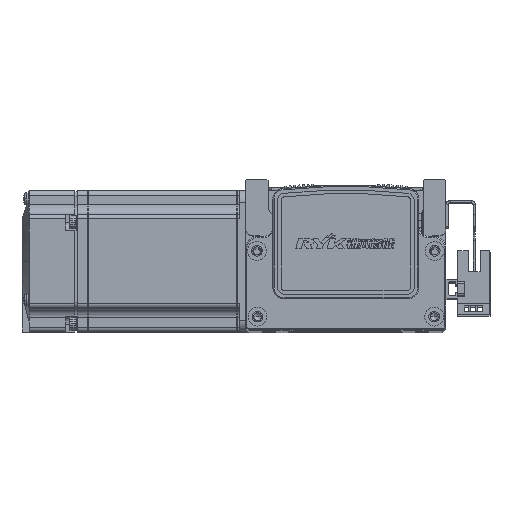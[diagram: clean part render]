
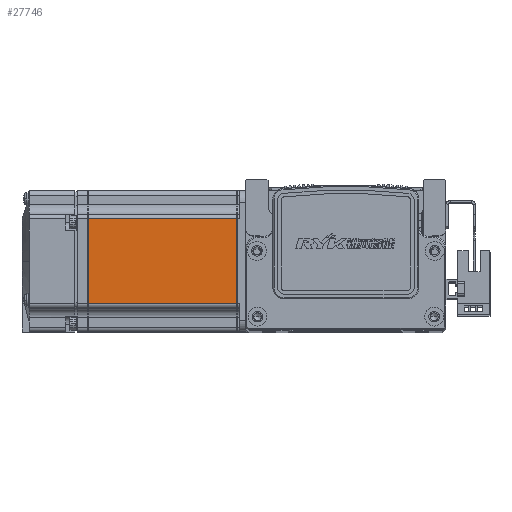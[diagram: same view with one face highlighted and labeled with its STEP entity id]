
A CAD part, top view. The second image highlights one B-rep face of the part: STEP entity #27746.
In plain terms, the highlighted planar face has unit normal (0, 0, 1) as drawn and (0, 0, -1) by its records, which use the part's own axes.
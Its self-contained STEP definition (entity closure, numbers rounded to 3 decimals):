
#2607 = AXIS2_PLACEMENT_3D ( 'NONE', #16698, #16697, #16707 ) ;
#7868 = EDGE_LOOP ( 'NONE', ( #49194, #49203, #49231, #49233 ) ) ;
#16695 = PLANE ( 'NONE',  #2607 ) ;
#16697 = DIRECTION ( 'NONE',  ( 0., 0., -1. ) ) ;
#16698 = CARTESIAN_POINT ( 'NONE',  ( -6.5, 25., -30. ) ) ;
#16707 = DIRECTION ( 'NONE',  ( -1., 0., 0. ) ) ;
#17560 = FACE_OUTER_BOUND ( 'NONE', #7868, .T. ) ;
#27746 = ADVANCED_FACE ( 'NONE', ( #17560 ), #16695, .T. ) ;
#36780 = CARTESIAN_POINT ( 'NONE',  ( -7.75, 25., -30. ) ) ;
#36798 = DIRECTION ( 'NONE',  ( 0., -1., 0. ) ) ;
#36847 = CARTESIAN_POINT ( 'NONE',  ( -6.5, -18., -30. ) ) ;
#36853 = DIRECTION ( 'NONE',  ( -1., 0., 0. ) ) ;
#36896 = CARTESIAN_POINT ( 'NONE',  ( -6.5, 18., -30. ) ) ;
#36907 = DIRECTION ( 'NONE',  ( 1., 0., 0. ) ) ;
#36972 = CARTESIAN_POINT ( 'NONE',  ( -70.95, 25., -30. ) ) ;
#36988 = DIRECTION ( 'NONE',  ( 0., 1., 0. ) ) ;
#37438 = LINE ( 'NONE', #36780, #37454 ) ;
#37454 = VECTOR ( 'NONE', #36798, 1000. ) ;
#37504 = LINE ( 'NONE', #36847, #37530 ) ;
#37530 = VECTOR ( 'NONE', #36853, 1000. ) ;
#37532 = LINE ( 'NONE', #36896, #37534 ) ;
#37534 = VECTOR ( 'NONE', #36907, 1000. ) ;
#37596 = LINE ( 'NONE', #36972, #37598 ) ;
#37598 = VECTOR ( 'NONE', #36988, 1000. ) ;
#41253 = EDGE_CURVE ( 'NONE', #53958, #53981, #37438, .T. ) ;
#41338 = EDGE_CURVE ( 'NONE', #53981, #53987, #37504, .T. ) ;
#41341 = EDGE_CURVE ( 'NONE', #53975, #53958, #37532, .T. ) ;
#41408 = EDGE_CURVE ( 'NONE', #53987, #53975, #37596, .T. ) ;
#49194 = ORIENTED_EDGE ( 'NONE', *, *, #41253, .T. ) ;
#49203 = ORIENTED_EDGE ( 'NONE', *, *, #41338, .T. ) ;
#49231 = ORIENTED_EDGE ( 'NONE', *, *, #41408, .T. ) ;
#49233 = ORIENTED_EDGE ( 'NONE', *, *, #41341, .T. ) ;
#53958 = VERTEX_POINT ( 'NONE', #62845 ) ;
#53975 = VERTEX_POINT ( 'NONE', #62958 ) ;
#53981 = VERTEX_POINT ( 'NONE', #62904 ) ;
#53987 = VERTEX_POINT ( 'NONE', #62928 ) ;
#62845 = CARTESIAN_POINT ( 'NONE',  ( -7.75, 18., -30. ) ) ;
#62904 = CARTESIAN_POINT ( 'NONE',  ( -7.75, -18., -30. ) ) ;
#62928 = CARTESIAN_POINT ( 'NONE',  ( -70.95, -18., -30. ) ) ;
#62958 = CARTESIAN_POINT ( 'NONE',  ( -70.95, 18., -30. ) ) ;
